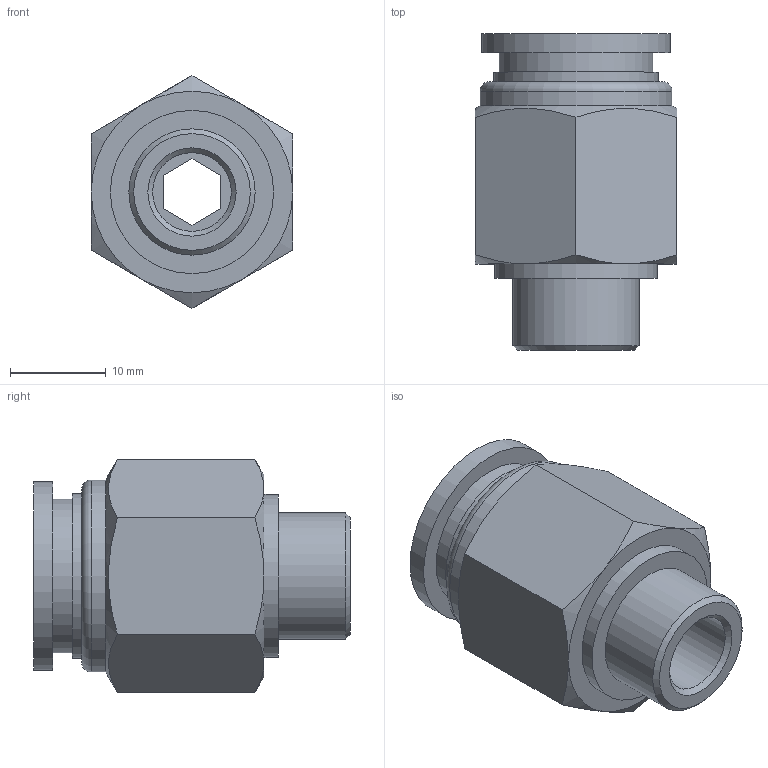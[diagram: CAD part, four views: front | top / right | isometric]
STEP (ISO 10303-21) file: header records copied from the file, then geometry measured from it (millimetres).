
FILE_DESCRIPTION((''),'2;1');
FILE_NAME('S:\UTecnico\ArchivioUT\Speciali Clienti\Speciali KONFIT\Plastica\RP\RP 51\RP511412.stp','2012-05-21T17:04:10',('UT5'),(''),'Autodesk Inventor 2012','Autodesk Inventor 2012','');
FILE_SCHEMA(('AUTOMOTIVE_DESIGN { 1 0 10303 214 1 1 1 1 }'));
Length unit declared in the file: millimetre
Products named in the file (1): RP511412
Bounding box: 21 x 33 x 24.25 mm (x, y, z)
Volume: 6682.3 mm3; surface area: 3922.8 mm2
Topology: 1 solids, 1 shells, 39 faces, 81 edges, 51 vertices
Faces by surface type: plane 21, cone 9, cylinder 8, torus 1
Full cylindrical faces by diameter (mm): 8.2 x1, 12 x1, 13.157 x1, 16 x1, 17 x1, 17.2 x1, 19.7 x1, 20 x1
Entity records: 982 total; most frequent: CARTESIAN_POINT 192, DIRECTION 154, ORIENTED_EDGE 134, EDGE_CURVE 67, AXIS2_PLACEMENT_3D 65, EDGE_LOOP 60, VERTEX_POINT 49, FACE_OUTER_BOUND 39
